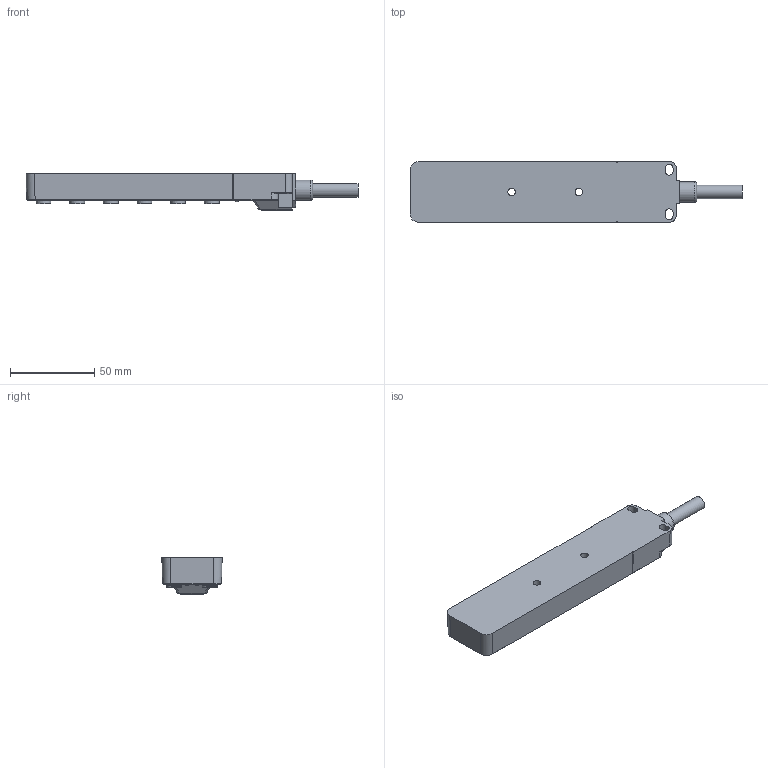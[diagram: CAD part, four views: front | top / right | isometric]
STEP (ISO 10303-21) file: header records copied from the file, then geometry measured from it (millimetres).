
FILE_DESCRIPTION(/* description */ (''),/* implementation_level */ '2;1');
FILE_NAME(/* name */ 'D12M8-3S-L.stp',/* time_stamp */ '2018-04-18T13:34:18+08:00',/* author */ (''),/* organization */ (''),/* preprocessor_version */ 'ST-DEVELOPER v16',/* originating_system */ 'SIEMENS PLM Software NX 10.0',/* authorisation */ '');
FILE_SCHEMA (('AP203_CONFIGURATION_CONTROLLED_3D_DESIGN_OF_MECHANICAL_PARTS_AND_ASSEMBLIES_MIM_LF { 1 0 10303 403 2 1 2}'));
Products named in the file (1): 9147259C92A3cz12
Bounding box: 197.42 x 35.84 x 22 mm (x, y, z)
Volume: 86202.3 mm3; surface area: 39255.2 mm2
Topology: 14 solids, 19 shells, 1578 faces, 4043 edges, 2669 vertices
Faces by surface type: plane 1035, cylinder 294, cone 116, bspline 72, torus 25, extrusion 23, sphere 13
Full cylindrical faces by diameter (mm): 1 x36, 1.1 x36, 1.4 x36, 1.5 x36, 4.5 x2, 8 x1, 9 x12, 12 x1
Entity records: 61446 total; most frequent: CARTESIAN_POINT 25583, DIRECTION 7237, ORIENTED_EDGE 7048, EDGE_CURVE 3524, AXIS2_PLACEMENT_3D 2476, VERTEX_POINT 2446, VECTOR 2285, LINE 2262
